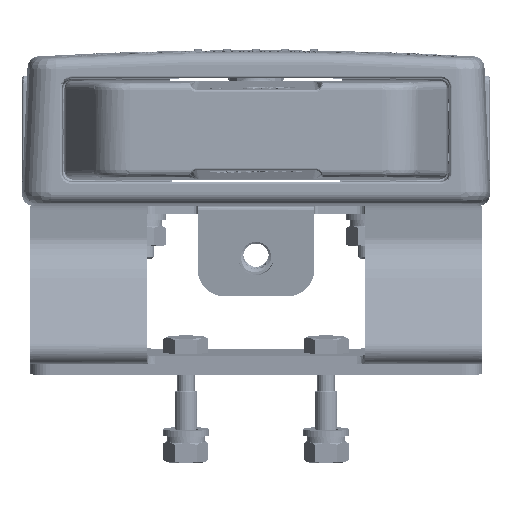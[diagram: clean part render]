
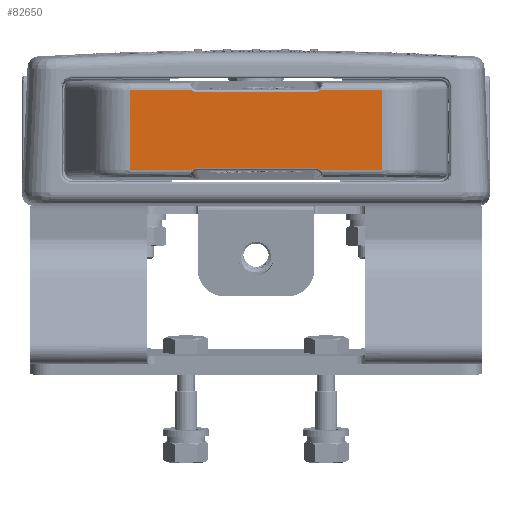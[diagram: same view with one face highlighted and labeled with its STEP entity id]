
A CAD part, front view. The second image highlights one B-rep face of the part: STEP entity #82650.
In plain terms, the highlighted planar face has unit normal (0, -1, 0) as drawn and (0, 0, 1) by its records, which use the part's own axes.
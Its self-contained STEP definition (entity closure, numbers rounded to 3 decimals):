
#74307=CARTESIAN_POINT('',(15.288,-9.802,
-9.326));
#74308=CARTESIAN_POINT('',(15.364,-9.802,
-9.326));
#74309=CARTESIAN_POINT('',(15.515,-9.81,
-9.326));
#74310=CARTESIAN_POINT('',(15.74,-9.849,
-9.326));
#74311=CARTESIAN_POINT('',(15.885,-9.892,
-9.326));
#74312=CARTESIAN_POINT('',(15.956,-9.917,
-9.326));
#74317=CARTESIAN_POINT('',(-15.956,-9.917,
-9.326));
#74318=CARTESIAN_POINT('',(-15.885,-9.892,
-9.326));
#74319=CARTESIAN_POINT('',(-15.74,-9.849,
-9.326));
#74320=CARTESIAN_POINT('',(-15.515,-9.81,
-9.326));
#74321=CARTESIAN_POINT('',(-15.364,-9.802,
-9.326));
#74322=CARTESIAN_POINT('',(-15.288,-9.802,
-9.326));
#74327=CARTESIAN_POINT('',(-16.45,-10.176,
-9.326));
#74328=CARTESIAN_POINT('',(-16.4,-10.14,
-9.326));
#74329=CARTESIAN_POINT('',(-16.295,-10.072,
-9.326));
#74330=CARTESIAN_POINT('',(-16.13,-9.985,
-9.326));
#74331=CARTESIAN_POINT('',(-16.015,-9.938,
-9.326));
#74332=CARTESIAN_POINT('',(-15.956,-9.917,
-9.326));
#74337=DIRECTION('',(1.,0.,0.));
#74338=VECTOR('',#74337,15.892);
#74339=CARTESIAN_POINT('',(-32.342,-10.176,
-9.326));
#74340=LINE('',#74339,#74338);
#74344=DIRECTION('',(-1.,0.,0.));
#74345=VECTOR('',#74344,15.892);
#74346=CARTESIAN_POINT('',(-16.45,10.176,
-9.326));
#74347=LINE('',#74346,#74345);
#74351=CARTESIAN_POINT('',(-15.956,9.917,
-9.326));
#74352=CARTESIAN_POINT('',(-16.015,9.938,
-9.326));
#74353=CARTESIAN_POINT('',(-16.13,9.985,
-9.326));
#74354=CARTESIAN_POINT('',(-16.295,10.072,
-9.326));
#74355=CARTESIAN_POINT('',(-16.4,10.14,
-9.326));
#74356=CARTESIAN_POINT('',(-16.45,10.176,
-9.326));
#74361=CARTESIAN_POINT('',(-15.288,9.802,
-9.326));
#74362=CARTESIAN_POINT('',(-15.364,9.802,
-9.326));
#74363=CARTESIAN_POINT('',(-15.515,9.81,
-9.326));
#74364=CARTESIAN_POINT('',(-15.74,9.849,
-9.326));
#74365=CARTESIAN_POINT('',(-15.885,9.892,
-9.326));
#74366=CARTESIAN_POINT('',(-15.956,9.917,
-9.326));
#74371=CARTESIAN_POINT('',(15.956,9.917,
-9.326));
#74372=CARTESIAN_POINT('',(15.885,9.892,
-9.326));
#74373=CARTESIAN_POINT('',(15.74,9.849,
-9.326));
#74374=CARTESIAN_POINT('',(15.515,9.81,
-9.326));
#74375=CARTESIAN_POINT('',(15.364,9.802,
-9.326));
#74376=CARTESIAN_POINT('',(15.288,9.802,
-9.326));
#74381=CARTESIAN_POINT('',(16.45,10.176,
-9.326));
#74382=CARTESIAN_POINT('',(16.4,10.14,
-9.326));
#74383=CARTESIAN_POINT('',(16.295,10.072,
-9.326));
#74384=CARTESIAN_POINT('',(16.13,9.985,
-9.326));
#74385=CARTESIAN_POINT('',(16.015,9.938,
-9.326));
#74386=CARTESIAN_POINT('',(15.956,9.917,
-9.326));
#74391=DIRECTION('',(-1.,0.,0.));
#74392=VECTOR('',#74391,15.892);
#74393=CARTESIAN_POINT('',(32.342,10.176,
-9.326));
#74394=LINE('',#74393,#74392);
#74398=DIRECTION('',(1.,0.,0.));
#74399=VECTOR('',#74398,15.892);
#74400=CARTESIAN_POINT('',(16.45,-10.176,
-9.326));
#74401=LINE('',#74400,#74399);
#74405=CARTESIAN_POINT('',(15.956,-9.917,
-9.326));
#74406=CARTESIAN_POINT('',(16.015,-9.938,
-9.326));
#74407=CARTESIAN_POINT('',(16.13,-9.985,
-9.326));
#74408=CARTESIAN_POINT('',(16.295,-10.072,
-9.326));
#74409=CARTESIAN_POINT('',(16.4,-10.14,
-9.326));
#74410=CARTESIAN_POINT('',(16.45,-10.176,
-9.326));
#74554=DIRECTION('',(0.,-1.,0.));
#74555=VECTOR('',#74554,20.352);
#74556=CARTESIAN_POINT('',(32.342,10.176,
-9.326));
#74557=LINE('',#74556,#74555);
#75412=DIRECTION('',(1.,0.,0.));
#75413=VECTOR('',#75412,30.577);
#75414=CARTESIAN_POINT('',(-15.288,9.802,
-9.326));
#75415=LINE('',#75414,#75413);
#75446=CARTESIAN_POINT('',(-16.45,10.176,
-9.326));
#75490=DIRECTION('',(0.,1.,0.));
#75491=VECTOR('',#75490,20.352);
#75492=CARTESIAN_POINT('',(-32.342,-10.176,
-9.326));
#75493=LINE('',#75492,#75491);
#77287=DIRECTION('',(-1.,0.,0.));
#77288=VECTOR('',#77287,30.577);
#77289=CARTESIAN_POINT('',(15.288,-9.802,
-9.326));
#77290=LINE('',#77289,#77288);
#81003=VERTEX_POINT('',#75446);
#81004=CARTESIAN_POINT('',(-32.342,10.176,
-9.326));
#81005=VERTEX_POINT('',#81004);
#81006=VERTEX_POINT('',#74307);
#81007=VERTEX_POINT('',#74312);
#81008=VERTEX_POINT('',#74410);
#81009=CARTESIAN_POINT('',(32.342,-10.176,
-9.326));
#81010=VERTEX_POINT('',#81009);
#81011=CARTESIAN_POINT('',(32.342,10.176,
-9.326));
#81012=VERTEX_POINT('',#81011);
#81013=CARTESIAN_POINT('',(16.45,10.176,
-9.326));
#81014=VERTEX_POINT('',#81013);
#81015=VERTEX_POINT('',#74386);
#81016=VERTEX_POINT('',#74376);
#81017=CARTESIAN_POINT('',(-15.288,9.802,
-9.326));
#81018=VERTEX_POINT('',#81017);
#81019=VERTEX_POINT('',#74366);
#81020=CARTESIAN_POINT('',(-32.342,-10.176,
-9.326));
#81021=VERTEX_POINT('',#81020);
#81022=CARTESIAN_POINT('',(-16.45,-10.176,
-9.326));
#81023=VERTEX_POINT('',#81022);
#81024=VERTEX_POINT('',#74332);
#81025=VERTEX_POINT('',#74322);
#82614=CARTESIAN_POINT('',(50.,12.5,-9.326));
#82615=DIRECTION('',(0.,0.,1.));
#82616=DIRECTION('',(1.,0.,0.));
#82617=AXIS2_PLACEMENT_3D('',#82614,#82615,#82616);
#82618=PLANE('',#82617);
#82620=ORIENTED_EDGE('',*,*,#82619,.F.);
#82622=ORIENTED_EDGE('',*,*,#82621,.T.);
#82623=ORIENTED_EDGE('',*,*,#82607,.F.);
#82624=ORIENTED_EDGE('',*,*,#82605,.F.);
#82625=ORIENTED_EDGE('',*,*,#82523,.F.);
#82627=ORIENTED_EDGE('',*,*,#82626,.T.);
#82629=ORIENTED_EDGE('',*,*,#82628,.F.);
#82631=ORIENTED_EDGE('',*,*,#82630,.F.);
#82633=ORIENTED_EDGE('',*,*,#82632,.F.);
#82635=ORIENTED_EDGE('',*,*,#82634,.T.);
#82637=ORIENTED_EDGE('',*,*,#82636,.F.);
#82639=ORIENTED_EDGE('',*,*,#82638,.F.);
#82641=ORIENTED_EDGE('',*,*,#82640,.F.);
#82643=ORIENTED_EDGE('',*,*,#82642,.T.);
#82645=ORIENTED_EDGE('',*,*,#82644,.F.);
#82647=ORIENTED_EDGE('',*,*,#82646,.F.);
#82648=EDGE_LOOP('',(#82620,#82622,#82623,#82624,#82625,#82627,#82629,#82631,
#82633,#82635,#82637,#82639,#82641,#82643,#82645,#82647));
#82649=FACE_OUTER_BOUND('',#82648,.F.);
#82650=ADVANCED_FACE('',(#82649),#82618,.T.);
#74313=B_SPLINE_CURVE_WITH_KNOTS('',3,(#74307,#74308,#74309,#74310,#74311,
#74312),.UNSPECIFIED.,.F.,.F.,(4,1,1,4),(0.,0.333,
0.667,1.),.UNSPECIFIED.);
#74323=B_SPLINE_CURVE_WITH_KNOTS('',3,(#74317,#74318,#74319,#74320,#74321,
#74322),.UNSPECIFIED.,.F.,.F.,(4,1,1,4),(0.,0.333,
0.667,1.),.UNSPECIFIED.);
#74333=B_SPLINE_CURVE_WITH_KNOTS('',3,(#74327,#74328,#74329,#74330,#74331,
#74332),.UNSPECIFIED.,.F.,.F.,(4,1,1,4),(0.,0.333,
0.667,1.),.UNSPECIFIED.);
#74357=B_SPLINE_CURVE_WITH_KNOTS('',3,(#74351,#74352,#74353,#74354,#74355,
#74356),.UNSPECIFIED.,.F.,.F.,(4,1,1,4),(0.,0.333,
0.667,1.),.UNSPECIFIED.);
#74367=B_SPLINE_CURVE_WITH_KNOTS('',3,(#74361,#74362,#74363,#74364,#74365,
#74366),.UNSPECIFIED.,.F.,.F.,(4,1,1,4),(0.,0.333,
0.667,1.),.UNSPECIFIED.);
#74377=B_SPLINE_CURVE_WITH_KNOTS('',3,(#74371,#74372,#74373,#74374,#74375,
#74376),.UNSPECIFIED.,.F.,.F.,(4,1,1,4),(0.,0.333,
0.667,1.),.UNSPECIFIED.);
#74387=B_SPLINE_CURVE_WITH_KNOTS('',3,(#74381,#74382,#74383,#74384,#74385,
#74386),.UNSPECIFIED.,.F.,.F.,(4,1,1,4),(0.,0.333,
0.667,1.),.UNSPECIFIED.);
#74411=B_SPLINE_CURVE_WITH_KNOTS('',3,(#74405,#74406,#74407,#74408,#74409,
#74410),.UNSPECIFIED.,.F.,.F.,(4,1,1,4),(0.,0.333,
0.667,1.),.UNSPECIFIED.);
#82523=EDGE_CURVE('',#81021,#81023,#74340,.T.);
#82605=EDGE_CURVE('',#81023,#81024,#74333,.T.);
#82607=EDGE_CURVE('',#81024,#81025,#74323,.T.);
#82619=EDGE_CURVE('',#81006,#81007,#74313,.T.);
#82621=EDGE_CURVE('',#81006,#81025,#77290,.T.);
#82626=EDGE_CURVE('',#81021,#81005,#75493,.T.);
#82628=EDGE_CURVE('',#81003,#81005,#74347,.T.);
#82630=EDGE_CURVE('',#81019,#81003,#74357,.T.);
#82632=EDGE_CURVE('',#81018,#81019,#74367,.T.);
#82634=EDGE_CURVE('',#81018,#81016,#75415,.T.);
#82636=EDGE_CURVE('',#81015,#81016,#74377,.T.);
#82638=EDGE_CURVE('',#81014,#81015,#74387,.T.);
#82640=EDGE_CURVE('',#81012,#81014,#74394,.T.);
#82642=EDGE_CURVE('',#81012,#81010,#74557,.T.);
#82644=EDGE_CURVE('',#81008,#81010,#74401,.T.);
#82646=EDGE_CURVE('',#81007,#81008,#74411,.T.);
